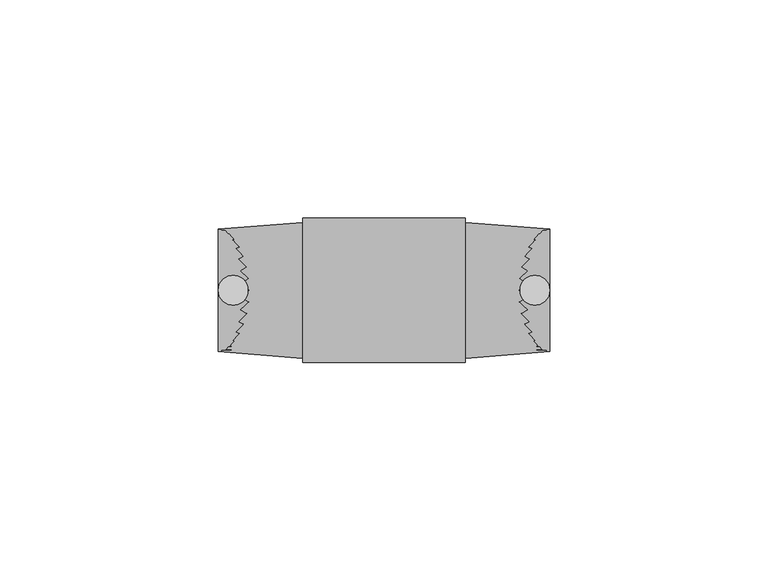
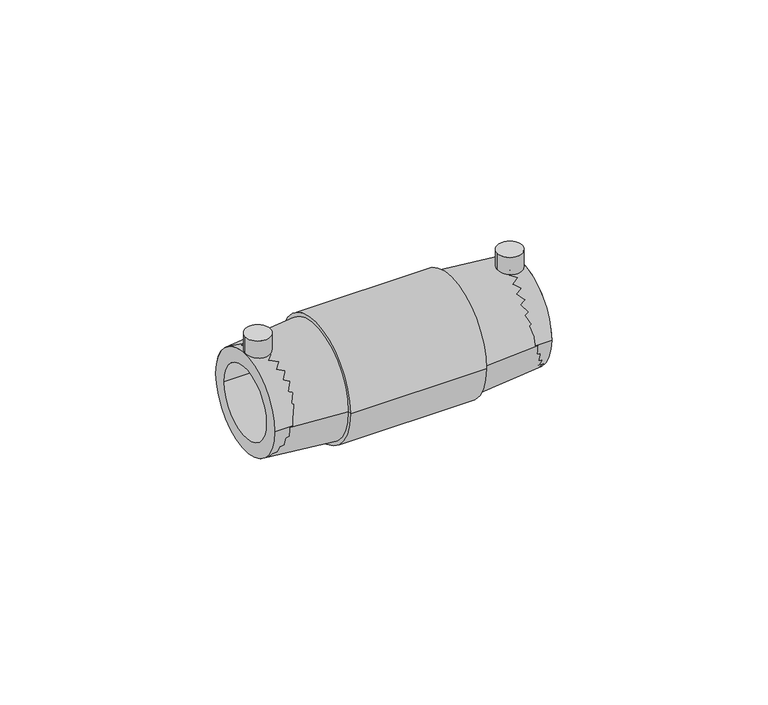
"""IFC4 building model written with IfcOpenShell, lengths in millimetres: pipe fitting geometry, EGB_VASEN_ PPR_Manguito electrosoldable WXRD100 : Manguito electrosoldable WXRD100."""

from ifc_helpers import new_model, si_unit, point, frame, frame_2d, origin, origin_2d, place, context, project, spatial, polyline, circle_curve, trimmed, segment, composite_curve, outline, extrude, source, transform, mapped, element, save
from ifc_brep_helpers import plane_surface, cylinder_surface, revolved_surface, advanced_brep


def pipe_fitting_1a408e28(model_context):
    return source(origin(), model_context, "Body", "SolidModel", [
        extrude(outline(composite_curve([segment(trimmed(circle_curve(origin_2d(), 14.0), [point((-14.0, 0.0))], [point((14.0, 0.0))], False, "CARTESIAN"), True, "CONTINUOUS"), segment(trimmed(circle_curve(origin_2d(), 14.0), [point((14.0, 0.0))], [point((-14.0, 0.0))], False, "CARTESIAN"), True, "CONTINUOUS")], self_intersect=False), holes=[composite_curve([segment(trimmed(circle_curve(origin_2d(), 10.0), [point((-10.0, 0.0))], [point((10.0, 0.0))], True, "CARTESIAN"), True, "CONTINUOUS"), segment(trimmed(circle_curve(origin_2d(), 10.0), [point((10.0, 0.0))], [point((-10.0, 0.0))], True, "CARTESIAN"), True, "CONTINUOUS")], self_intersect=False)]), frame((-38.0, 0.0, 0.0), z_axis=(1.0, 0.0, 0.0), x_axis=(0.0, 1.0, 0.0)), (0.0, 0.0, 1.0), 76.0),
        extrude(outline(composite_curve([segment(trimmed(circle_curve(frame_2d((-34.5878802, 0.0)), 3.4121198), [point((-38.0, 0.0))], [point((-31.1757605, 0.0))], False, "CARTESIAN"), True, "CONTINUOUS"), segment(trimmed(circle_curve(frame_2d((-34.5878802, 0.0)), 3.4121198), [point((-31.1757605, 0.0))], [point((-38.0, 0.0))], False, "CARTESIAN"), True, "CONTINUOUS")], self_intersect=False)), frame((0.0, 0.0, 12.0), z_axis=(0.0, 0.0, 1.0), x_axis=(1.0, 0.0, 0.0)), (0.0, 0.0, 1.0), 7.0),
        extrude(outline(composite_curve([segment(trimmed(circle_curve(frame_2d((34.5878802, 0.0)), 3.4121198), [point((31.1757605, 0.0))], [point((38.0, 0.0))], False, "CARTESIAN"), True, "CONTINUOUS"), segment(trimmed(circle_curve(frame_2d((34.5878802, 0.0)), 3.4121198), [point((38.0, 0.0))], [point((31.1757605, 0.0))], False, "CARTESIAN"), True, "CONTINUOUS")], self_intersect=False)), frame((0.0, 0.0, 12.0), z_axis=(0.0, 0.0, 1.0), x_axis=(1.0, 0.0, 0.0)), (0.0, 0.0, 1.0), 7.0),
        advanced_brep(
        [(18.6, -15.582849, 0.0), (18.6, 15.582849, 0.0), (38.0, 14.0, 0.0), (38.0, -14.0, 0.0), (18.6, -16.582849, 0.0), (18.6, 16.582849, 0.0), (-18.6, -16.582849, 0.0), (-18.6, 16.582849, 0.0), (-18.6, -15.582849, 0.0), (-18.6, 15.582849, 0.0), (-38.0, -14.0, 0.0), (-38.0, 14.0, 0.0)],
        [
            (0, 1, circle_curve(frame((18.6, 0.0, 0.0), z_axis=(1.0, 0.0, 0.0), x_axis=(0.0, 1.0, 0.0)), 15.582849)),
            (1, 2),
            (2, 3, circle_curve(frame((38.0, 0.0, 0.0), z_axis=(-1.0, 0.0, 0.0), x_axis=(0.0, 1.0, 0.0)), 14.0)),
            (3, 0),
            (1, 0, circle_curve(frame((18.6, 0.0, 0.0), z_axis=(1.0, 0.0, 0.0), x_axis=(0.0, 1.0, 0.0)), 15.582849)),
            (3, 2, circle_curve(frame((38.0, 0.0, 0.0), z_axis=(-1.0, 0.0, 0.0), x_axis=(0.0, 1.0, 0.0)), 14.0)),
            (4, 5, circle_curve(frame((18.6, 0.0, 0.0), z_axis=(1.0, 0.0, 0.0), x_axis=(0.0, 1.0, 0.0)), 16.582849)),
            (5, 1),
            (0, 4),
            (5, 4, circle_curve(frame((18.6, 0.0, 0.0), z_axis=(1.0, 0.0, 0.0), x_axis=(0.0, 1.0, 0.0)), 16.582849)),
            (6, 7, circle_curve(frame((-18.6, 0.0, 0.0), z_axis=(1.0, 0.0, 0.0), x_axis=(0.0, 1.0, 0.0)), 16.582849)),
            (7, 5),
            (4, 6),
            (7, 6, circle_curve(frame((-18.6, 0.0, 0.0), z_axis=(1.0, 0.0, 0.0), x_axis=(0.0, 1.0, 0.0)), 16.582849)),
            (8, 9, circle_curve(frame((-18.6, 0.0, 0.0), z_axis=(1.0, 0.0, 0.0), x_axis=(0.0, 1.0, 0.0)), 15.582849)),
            (9, 7),
            (6, 8),
            (9, 8, circle_curve(frame((-18.6, 0.0, 0.0), z_axis=(1.0, 0.0, 0.0), x_axis=(0.0, 1.0, 0.0)), 15.582849)),
            (10, 11, circle_curve(frame((-38.0, 0.0, 0.0), z_axis=(1.0, 0.0, 0.0), x_axis=(0.0, 1.0, 0.0)), 14.0)),
            (11, 9),
            (8, 10),
            (11, 10, circle_curve(frame((-38.0, 0.0, 0.0), z_axis=(1.0, 0.0, 0.0), x_axis=(0.0, 1.0, 0.0)), 14.0)),
            (2, 11),
            (10, 3),
        ],
        [
            revolved_surface(polyline([(38.0, 14.0, 0.0), (18.6, 15.582849, 0.0)]), (-31.7721997, 0.0, 0.0), (-1.0, 0.0, 0.0)),
            plane_surface(frame((18.6, 0.0, 0.0), z_axis=(1.0, 0.0, 0.0), x_axis=(0.0, 1.0, 0.0))),
            cylinder_surface(frame((-31.7721997, 0.0, 0.0), z_axis=(-1.0, 0.0, 0.0), x_axis=(0.0, 1.0, 0.0)), 16.582849),
            plane_surface(frame((-18.6, 0.0, 0.0), z_axis=(-1.0, 0.0, 0.0), x_axis=(0.0, 1.0, 0.0))),
            revolved_surface(polyline([(-18.6, 15.582849, 0.0), (-38.0, 14.0, 0.0)]), (-31.7721997, 0.0, 0.0), (-1.0, 0.0, 0.0)),
            revolved_surface(polyline([(-38.0, 14.0, 0.0), (38.0, 14.0, 0.0)]), (-31.7721997, 0.0, 0.0), (-1.0, 0.0, 0.0)),
        ],
        [
            (0, [[1, 2, 3, 4]]),
            (0, [[5, -4, 6, -2]]),
            (1, [[7, 8, -1, 9]]),
            (1, [[10, -9, -5, -8]]),
            (2, [[11, 12, -7, 13]]),
            (2, [[14, -13, -10, -12]]),
            (3, [[15, 16, -11, 17]]),
            (3, [[18, -17, -14, -16]]),
            (4, [[19, 20, -15, 21]]),
            (4, [[22, -21, -18, -20]]),
            (5, [[-3, 23, -19, 24]]),
            (5, [[-6, -24, -22, -23]]),
        ],
    ),
    ])


if __name__ == "__main__":
    model = new_model("IFC4")
    model_context = context("Model", 3, world=origin())
    ifc_project = project(units=[si_unit("LENGTHUNIT", "METRE", prefix="MILLI")], contexts=[model_context])
    site = spatial("IfcSite", under=ifc_project)
    building = spatial("IfcBuilding", under=site)
    placement = place(None, origin())
    pipe_fitting_shape = pipe_fitting_1a408e28(model_context)
    element("IfcPipeFitting", 1, ObjectType="EGB_VASEN_ PPR_Manguito electrosoldable WXRD100 : Manguito electrosoldable WXRD100", at=placement, inside=building, context=model_context, shape_type="MappedRepresentation", body=[
        mapped(pipe_fitting_shape, transform((0.0, 0.0, 0.0), x_axis=(1.0, 0.0, 0.0), y_axis=(0.0, 1.0, 0.0), z_axis=(0.0, 0.0, 1.0))),
    ])
    save(model, "model.ifc")
